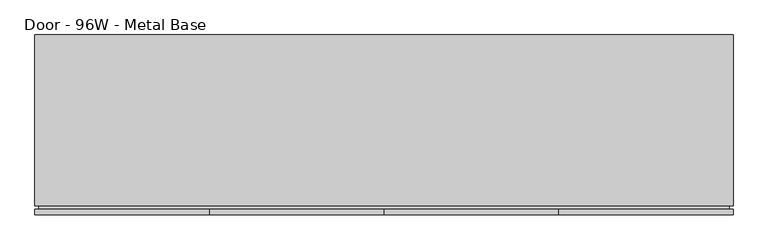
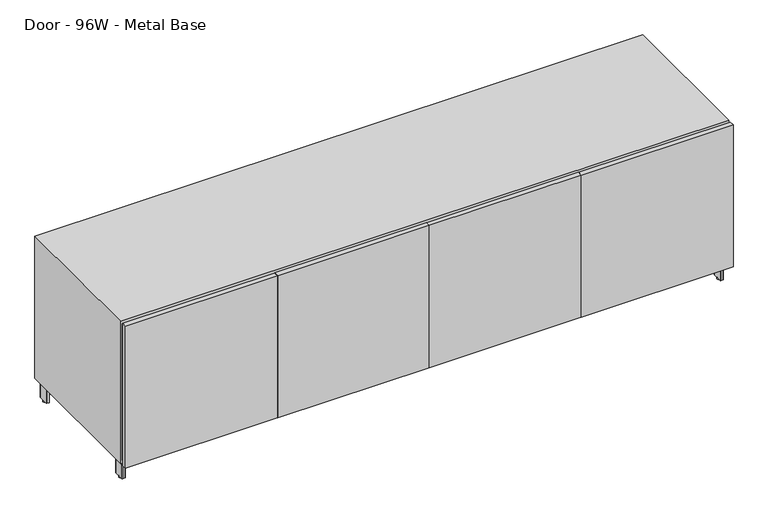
"""IFC4 building model written with IfcOpenShell, lengths in millimetres: furniture geometry, Steelcase Coalesse - Exponents - Storage - Credenza - 27H : Door - 96W - Metal Base."""

from ifc_helpers import new_model, si_unit, point, frame, frame_2d, origin, origin_with_axes, place, context, project, spatial, polyline, circle_curve, trimmed, segment, composite_curve, outline, extrude, faceted_brep, source, transform, mapped, element, save


def door_96w_metal_base_defe34cb(model_context):
    return source(origin(), model_context, "Body", "SolidModel", [
        faceted_brep([(6.35, 31.75, 673.1), (6.35, 31.75, 95.25), (6.35, 622.3, 95.25), (6.35, 622.3, 673.1), (2432.05, 622.3, 95.25), (2432.05, 622.3, 673.1), (2432.05, 31.75, 95.25), (2432.05, 31.75, 673.1), (0.0, 31.75, 82.55), (2438.4, 31.75, 82.55), (2438.4, 31.75, 685.8), (0.0, 31.75, 685.8), (2438.4, 628.65, 82.55), (2438.4, 628.65, 685.8), (0.0, 628.65, 82.55), (0.0, 628.65, 685.8)], [[[0, 1, 2, 3]], [[3, 2, 4, 5]], [[5, 4, 6, 7]], [[8, 9, 10, 11], [7, 6, 1, 0]], [[10, 9, 12, 13]], [[13, 12, 14, 15]], [[15, 14, 8, 11]], [[7, 0, 3, 5]], [[10, 13, 15, 11]], [[1, 6, 4, 2]], [[12, 9, 8, 14]]]),
        extrude(outline(composite_curve([segment(polyline([(2414.7506426, 615.95), (2423.922, 615.95)]), True, "CONTINUOUS"), segment(trimmed(circle_curve(frame_2d((2423.922, 614.172)), 1.778), [point((2423.922, 615.95))], [point((2425.7, 614.172))], False, "CARTESIAN"), True, "CONTINUOUS"), segment(polyline([(2425.7, 614.172), (2425.7, 572.9986)]), True, "CONTINUOUS"), segment(trimmed(circle_curve(frame_2d((2423.922, 572.9986)), 1.778), [point((2425.7, 572.9986))], [point((2423.922, 571.2206))], False, "CARTESIAN"), True, "CONTINUOUS"), segment(polyline([(2423.922, 571.2206), (2414.7948916, 571.2206)]), True, "CONTINUOUS"), segment(trimmed(circle_curve(frame_2d((2414.7948916, 573.0154916)), 1.7948916), [point((2414.7948916, 571.2206))], [point((2413.0, 573.0154916))], False, "CARTESIAN"), True, "CONTINUOUS"), segment(polyline([(2413.0, 573.0154916), (2413.0, 614.1993574)]), True, "CONTINUOUS"), segment(trimmed(circle_curve(frame_2d((2414.7506426, 614.1993574)), 1.7506426), [point((2413.0, 614.1993574))], [point((2414.7506426, 615.95))], False, "CARTESIAN"), True, "CONTINUOUS")], self_intersect=False)), frame((0.0, 0.0, 6.35), z_axis=(0.0, 0.0, 1.0), x_axis=(1.0, 0.0, 0.0)), (0.0, 0.0, 1.0), 73.4568),
        extrude(outline(composite_curve([segment(polyline([(2414.7506426, 88.9), (2423.922, 88.9)]), True, "CONTINUOUS"), segment(trimmed(circle_curve(frame_2d((2423.922, 87.122)), 1.778), [point((2423.922, 88.9))], [point((2425.7, 87.122))], False, "CARTESIAN"), True, "CONTINUOUS"), segment(polyline([(2425.7, 87.122), (2425.7, 45.9486)]), True, "CONTINUOUS"), segment(trimmed(circle_curve(frame_2d((2423.922, 45.9486)), 1.778), [point((2425.7, 45.9486))], [point((2423.922, 44.1706))], False, "CARTESIAN"), True, "CONTINUOUS"), segment(polyline([(2423.922, 44.1706), (2414.7948916, 44.1706)]), True, "CONTINUOUS"), segment(trimmed(circle_curve(frame_2d((2414.7948916, 45.9654916)), 1.7948916), [point((2414.7948916, 44.1706))], [point((2413.0, 45.9654916))], False, "CARTESIAN"), True, "CONTINUOUS"), segment(polyline([(2413.0, 45.9654916), (2413.0, 87.1493574)]), True, "CONTINUOUS"), segment(trimmed(circle_curve(frame_2d((2414.7506426, 87.1493574)), 1.7506426), [point((2413.0, 87.1493574))], [point((2414.7506426, 88.9))], False, "CARTESIAN"), True, "CONTINUOUS")], self_intersect=False)), frame((0.0, 0.0, 6.35), z_axis=(0.0, 0.0, 1.0), x_axis=(1.0, 0.0, 0.0)), (0.0, 0.0, 1.0), 73.4568),
        extrude(outline(composite_curve([segment(trimmed(circle_curve(frame_2d((2419.35, 593.5667033)), 6.35), [point((2419.35, 599.9167033))], [point((2419.35, 587.2167033))], False, "CARTESIAN"), True, "CONTINUOUS"), segment(trimmed(circle_curve(frame_2d((2419.35, 593.5667033)), 6.35), [point((2419.35, 587.2167033))], [point((2419.35, 599.9167033))], False, "CARTESIAN"), True, "CONTINUOUS")], self_intersect=False)), origin_with_axes(), (0.0, 0.0, 1.0), 6.35),
        extrude(outline(composite_curve([segment(trimmed(circle_curve(frame_2d((2419.35, 66.7867854)), 6.35), [point((2419.35, 73.1367854))], [point((2419.35, 60.4367854))], False, "CARTESIAN"), True, "CONTINUOUS"), segment(trimmed(circle_curve(frame_2d((2419.35, 66.7867854)), 6.35), [point((2419.35, 60.4367854))], [point((2419.35, 73.1367854))], False, "CARTESIAN"), True, "CONTINUOUS")], self_intersect=False)), origin_with_axes(), (0.0, 0.0, 1.0), 6.35),
        extrude(outline(polyline([(1879.6, 379.0696809), (1879.6, 277.4696809), (1778.0, 277.4696809), (1778.0, 379.0696809), (1879.6, 379.0696809)])), frame((0.0, 0.0, 79.8068), z_axis=(0.0, 0.0, 1.0), x_axis=(1.0, 0.0, 0.0)), (0.0, 0.0, 1.0), 2.7432),
        extrude(outline(polyline([(673.1, 2425.7), (673.1, 12.7), (95.25, 12.7), (95.25, 2425.7), (673.1, 2425.7)]), holes=[polyline([(666.75, 2419.35), (101.6, 2419.35), (101.6, 19.05), (666.75, 19.05), (666.75, 2419.35)])]), frame((0.0, 19.05, 0.0), z_axis=(0.0, 1.0, 0.0), x_axis=(0.0, 0.0, 1.0)), (0.0, 0.0, 1.0), 31.75),
        extrude(outline(composite_curve([segment(polyline([(1821.0256426, 349.25), (1836.547, 349.25)]), True, "CONTINUOUS"), segment(trimmed(circle_curve(frame_2d((1836.547, 347.472)), 1.778), [point((1836.547, 349.25))], [point((1838.325, 347.472))], False, "CARTESIAN"), True, "CONTINUOUS"), segment(polyline([(1838.325, 347.472), (1838.325, 312.928)]), True, "CONTINUOUS"), segment(trimmed(circle_curve(frame_2d((1836.547, 312.928)), 1.778), [point((1838.325, 312.928))], [point((1836.547, 311.15))], False, "CARTESIAN"), True, "CONTINUOUS"), segment(polyline([(1836.547, 311.15), (1821.0698916, 311.15)]), True, "CONTINUOUS"), segment(trimmed(circle_curve(frame_2d((1821.0698916, 312.9448916)), 1.7948916), [point((1821.0698916, 311.15))], [point((1819.275, 312.9448916))], False, "CARTESIAN"), True, "CONTINUOUS"), segment(polyline([(1819.275, 312.9448916), (1819.275, 347.4993574)]), True, "CONTINUOUS"), segment(trimmed(circle_curve(frame_2d((1821.0256426, 347.4993574)), 1.7506426), [point((1819.275, 347.4993574))], [point((1821.0256426, 349.25))], False, "CARTESIAN"), True, "CONTINUOUS")], self_intersect=False)), frame((0.0, 0.0, 6.35), z_axis=(0.0, 0.0, 1.0), x_axis=(1.0, 0.0, 0.0)), (0.0, 0.0, 1.0), 73.4568),
        extrude(outline(polyline([(1830.0800308, 345.280854), (2413.0, 598.591626), (2413.0, 577.8206777), (1843.1741031, 330.2), (2413.0, 82.5793223), (2413.0, 61.808374), (1830.377267, 314.9899805), (1836.8101738, 329.7934165), (1830.0800308, 345.280854)])), frame((0.0, 0.0, 34.925), z_axis=(0.0, 0.0, 1.0), x_axis=(1.0, 0.0, 0.0)), (0.0, 0.0, 1.0), 44.8818),
        extrude(outline(polyline([(2432.05, 520.7), (2330.45, 520.7), (2330.45, 622.3), (2432.05, 622.3), (2432.05, 520.7)])), frame((0.0, 0.0, 79.8068), z_axis=(0.0, 0.0, 1.0), x_axis=(1.0, 0.0, 0.0)), (0.0, 0.0, 1.0), 2.7432),
        extrude(outline(polyline([(2432.05, 139.7), (2432.05, 38.1), (2330.45, 38.1), (2330.45, 139.7), (2432.05, 139.7)])), frame((0.0, 0.0, 79.8068), z_axis=(0.0, 0.0, 1.0), x_axis=(1.0, 0.0, 0.0)), (0.0, 0.0, 1.0), 2.7432),
        extrude(outline(composite_curve([segment(trimmed(circle_curve(frame_2d((1828.6250692, 330.5590189)), 6.35), [point((1828.6250692, 336.9090189))], [point((1828.6250692, 324.2090189))], False, "CARTESIAN"), True, "CONTINUOUS"), segment(trimmed(circle_curve(frame_2d((1828.6250692, 330.5590189)), 6.35), [point((1828.6250692, 324.2090189))], [point((1828.6250692, 336.9090189))], False, "CARTESIAN"), True, "CONTINUOUS")], self_intersect=False)), origin_with_axes(), (0.0, 0.0, 1.0), 6.35),
        extrude(outline(composite_curve([segment(trimmed(circle_curve(frame_2d((1219.2, 330.5590189)), 6.35), [point((1219.2, 324.2090189))], [point((1219.2, 336.9090189))], False, "CARTESIAN"), True, "CONTINUOUS"), segment(trimmed(circle_curve(frame_2d((1219.2, 330.5590189)), 6.35), [point((1219.2, 336.9090189))], [point((1219.2, 324.2090189))], False, "CARTESIAN"), True, "CONTINUOUS")], self_intersect=False)), origin_with_axes(), (0.0, 0.0, 1.0), 6.35),
        extrude(outline(polyline([(1168.4, 379.0696809), (1270.0, 379.0696809), (1270.0, 277.4696809), (1168.4, 277.4696809), (1168.4, 379.0696809)])), frame((0.0, 0.0, 79.8068), z_axis=(0.0, 0.0, 1.0), x_axis=(1.0, 0.0, 0.0)), (0.0, 0.0, 1.0), 2.7432),
        extrude(outline(composite_curve([segment(trimmed(circle_curve(frame_2d((1226.9743574, 347.4993574)), 1.7506426), [point((1226.9743574, 349.25))], [point((1228.725, 347.4993574))], False, "CARTESIAN"), True, "CONTINUOUS"), segment(polyline([(1228.725, 347.4993574), (1228.725, 312.9448916)]), True, "CONTINUOUS"), segment(trimmed(circle_curve(frame_2d((1226.9301084, 312.9448916)), 1.7948916), [point((1228.725, 312.9448916))], [point((1226.9301084, 311.15))], False, "CARTESIAN"), True, "CONTINUOUS"), segment(polyline([(1226.9301084, 311.15), (1211.453, 311.15)]), True, "CONTINUOUS"), segment(trimmed(circle_curve(frame_2d((1211.453, 312.928)), 1.778), [point((1211.453, 311.15))], [point((1209.675, 312.928))], False, "CARTESIAN"), True, "CONTINUOUS"), segment(polyline([(1209.675, 312.928), (1209.675, 347.472)]), True, "CONTINUOUS"), segment(trimmed(circle_curve(frame_2d((1211.453, 347.472)), 1.778), [point((1209.675, 347.472))], [point((1211.453, 349.25))], False, "CARTESIAN"), True, "CONTINUOUS"), segment(polyline([(1211.453, 349.25), (1226.9743574, 349.25)]), True, "CONTINUOUS")], self_intersect=False)), frame((0.0, 0.0, 6.35), z_axis=(0.0, 0.0, 1.0), x_axis=(1.0, 0.0, 0.0)), (0.0, 0.0, 1.0), 73.4568),
        extrude(outline(polyline([(2438.4, 19.05), (2438.4, 0.0), (1829.435, 0.0), (1829.435, 19.05), (2438.4, 19.05)])), frame((0.0, 0.0, 82.55), z_axis=(0.0, 0.0, 1.0), x_axis=(1.0, 0.0, 0.0)), (0.0, 0.0, 1.0), 603.25),
        extrude(outline(polyline([(1827.8348, 19.05), (1827.8348, 0.0), (1220.0128, 0.0), (1220.0128, 19.05), (1827.8348, 19.05)])), frame((0.0, 0.0, 82.55), z_axis=(0.0, 0.0, 1.0), x_axis=(1.0, 0.0, 0.0)), (0.0, 0.0, 1.0), 603.25),
        extrude(outline(composite_curve([segment(trimmed(circle_curve(frame_2d((23.6493574, 614.1993574)), 1.7506426), [point((23.6493574, 615.95))], [point((25.4, 614.1993574))], False, "CARTESIAN"), True, "CONTINUOUS"), segment(polyline([(25.4, 614.1993574), (25.4, 573.0154916)]), True, "CONTINUOUS"), segment(trimmed(circle_curve(frame_2d((23.6051084, 573.0154916)), 1.7948916), [point((25.4, 573.0154916))], [point((23.6051084, 571.2206))], False, "CARTESIAN"), True, "CONTINUOUS"), segment(polyline([(23.6051084, 571.2206), (14.478, 571.2206)]), True, "CONTINUOUS"), segment(trimmed(circle_curve(frame_2d((14.478, 572.9986)), 1.778), [point((14.478, 571.2206))], [point((12.7, 572.9986))], False, "CARTESIAN"), True, "CONTINUOUS"), segment(polyline([(12.7, 572.9986), (12.7, 614.172)]), True, "CONTINUOUS"), segment(trimmed(circle_curve(frame_2d((14.478, 614.172)), 1.778), [point((12.7, 614.172))], [point((14.478, 615.95))], False, "CARTESIAN"), True, "CONTINUOUS"), segment(polyline([(14.478, 615.95), (23.6493574, 615.95)]), True, "CONTINUOUS")], self_intersect=False)), frame((0.0, 0.0, 6.35), z_axis=(0.0, 0.0, 1.0), x_axis=(1.0, 0.0, 0.0)), (0.0, 0.0, 1.0), 73.4568),
        extrude(outline(composite_curve([segment(trimmed(circle_curve(frame_2d((23.6493574, 87.1493574)), 1.7506426), [point((23.6493574, 88.9))], [point((25.4, 87.1493574))], False, "CARTESIAN"), True, "CONTINUOUS"), segment(polyline([(25.4, 87.1493574), (25.4, 45.9654916)]), True, "CONTINUOUS"), segment(trimmed(circle_curve(frame_2d((23.6051084, 45.9654916)), 1.7948916), [point((25.4, 45.9654916))], [point((23.6051084, 44.1706))], False, "CARTESIAN"), True, "CONTINUOUS"), segment(polyline([(23.6051084, 44.1706), (14.478, 44.1706)]), True, "CONTINUOUS"), segment(trimmed(circle_curve(frame_2d((14.478, 45.9486)), 1.778), [point((14.478, 44.1706))], [point((12.7, 45.9486))], False, "CARTESIAN"), True, "CONTINUOUS"), segment(polyline([(12.7, 45.9486), (12.7, 87.122)]), True, "CONTINUOUS"), segment(trimmed(circle_curve(frame_2d((14.478, 87.122)), 1.778), [point((12.7, 87.122))], [point((14.478, 88.9))], False, "CARTESIAN"), True, "CONTINUOUS"), segment(polyline([(14.478, 88.9), (23.6493574, 88.9)]), True, "CONTINUOUS")], self_intersect=False)), frame((0.0, 0.0, 6.35), z_axis=(0.0, 0.0, 1.0), x_axis=(1.0, 0.0, 0.0)), (0.0, 0.0, 1.0), 73.4568),
        extrude(outline(composite_curve([segment(trimmed(circle_curve(frame_2d((617.3743574, 347.4993574)), 1.7506426), [point((617.3743574, 349.25))], [point((619.125, 347.4993574))], False, "CARTESIAN"), True, "CONTINUOUS"), segment(polyline([(619.125, 347.4993574), (619.125, 312.9448916)]), True, "CONTINUOUS"), segment(trimmed(circle_curve(frame_2d((617.3301084, 312.9448916)), 1.7948916), [point((619.125, 312.9448916))], [point((617.3301084, 311.15))], False, "CARTESIAN"), True, "CONTINUOUS"), segment(polyline([(617.3301084, 311.15), (601.853, 311.15)]), True, "CONTINUOUS"), segment(trimmed(circle_curve(frame_2d((601.853, 312.928)), 1.778), [point((601.853, 311.15))], [point((600.075, 312.928))], False, "CARTESIAN"), True, "CONTINUOUS"), segment(polyline([(600.075, 312.928), (600.075, 347.472)]), True, "CONTINUOUS"), segment(trimmed(circle_curve(frame_2d((601.853, 347.472)), 1.778), [point((600.075, 347.472))], [point((601.853, 349.25))], False, "CARTESIAN"), True, "CONTINUOUS"), segment(polyline([(601.853, 349.25), (617.3743574, 349.25)]), True, "CONTINUOUS")], self_intersect=False)), frame((0.0, 0.0, 6.35), z_axis=(0.0, 0.0, 1.0), x_axis=(1.0, 0.0, 0.0)), (0.0, 0.0, 1.0), 73.4568),
        extrude(outline(polyline([(608.3199692, 345.280854), (601.5898262, 329.7934165), (608.022733, 314.9899805), (25.4, 61.808374), (25.4, 82.5793223), (595.2258969, 330.2), (25.4, 577.8206777), (25.4, 598.591626), (608.3199692, 345.280854)])), frame((0.0, 0.0, 34.925), z_axis=(0.0, 0.0, 1.0), x_axis=(1.0, 0.0, 0.0)), (0.0, 0.0, 1.0), 44.8818),
        extrude(outline(polyline([(1218.4126, 19.05), (1218.4126, 0.0), (610.5652, 0.0), (610.5652, 19.05), (1218.4126, 19.05)])), frame((0.0, 0.0, 82.55), z_axis=(0.0, 0.0, 1.0), x_axis=(1.0, 0.0, 0.0)), (0.0, 0.0, 1.0), 603.25),
        extrude(outline(polyline([(6.35, 520.7), (6.35, 622.3), (107.95, 622.3), (107.95, 520.7), (6.35, 520.7)])), frame((0.0, 0.0, 79.8068), z_axis=(0.0, 0.0, 1.0), x_axis=(1.0, 0.0, 0.0)), (0.0, 0.0, 1.0), 2.7432),
        extrude(outline(polyline([(6.35, 139.7), (107.95, 139.7), (107.95, 38.1), (6.35, 38.1), (6.35, 139.7)])), frame((0.0, 0.0, 79.8068), z_axis=(0.0, 0.0, 1.0), x_axis=(1.0, 0.0, 0.0)), (0.0, 0.0, 1.0), 2.7432),
        extrude(outline(polyline([(558.8, 379.0696809), (660.4, 379.0696809), (660.4, 277.4696809), (558.8, 277.4696809), (558.8, 379.0696809)])), frame((0.0, 0.0, 79.8068), z_axis=(0.0, 0.0, 1.0), x_axis=(1.0, 0.0, 0.0)), (0.0, 0.0, 1.0), 2.7432),
        extrude(outline(polyline([(608.965, 19.05), (608.965, 0.0), (0.0, 0.0), (0.0, 19.05), (608.965, 19.05)])), frame((0.0, 0.0, 82.55), z_axis=(0.0, 0.0, 1.0), x_axis=(1.0, 0.0, 0.0)), (0.0, 0.0, 1.0), 603.25),
        extrude(outline(composite_curve([segment(trimmed(circle_curve(frame_2d((19.05, 593.5667033)), 6.35), [point((12.7, 593.5667033))], [point((25.4, 593.5667033))], False, "CARTESIAN"), True, "CONTINUOUS"), segment(trimmed(circle_curve(frame_2d((19.05, 593.5667033)), 6.35), [point((25.4, 593.5667033))], [point((12.7, 593.5667033))], False, "CARTESIAN"), True, "CONTINUOUS")], self_intersect=False)), origin_with_axes(), (0.0, 0.0, 1.0), 6.35),
        extrude(outline(composite_curve([segment(trimmed(circle_curve(frame_2d((19.05, 66.7867854)), 6.35), [point((12.7, 66.7867854))], [point((25.4, 66.7867854))], False, "CARTESIAN"), True, "CONTINUOUS"), segment(trimmed(circle_curve(frame_2d((19.05, 66.7867854)), 6.35), [point((25.4, 66.7867854))], [point((12.7, 66.7867854))], False, "CARTESIAN"), True, "CONTINUOUS")], self_intersect=False)), origin_with_axes(), (0.0, 0.0, 1.0), 6.35),
        extrude(outline(composite_curve([segment(trimmed(circle_curve(frame_2d((609.7749308, 330.5590189)), 6.35), [point((603.4249308, 330.5590189))], [point((616.1249308, 330.5590189))], False, "CARTESIAN"), True, "CONTINUOUS"), segment(trimmed(circle_curve(frame_2d((609.7749308, 330.5590189)), 6.35), [point((616.1249308, 330.5590189))], [point((603.4249308, 330.5590189))], False, "CARTESIAN"), True, "CONTINUOUS")], self_intersect=False)), origin_with_axes(), (0.0, 0.0, 1.0), 6.35),
        extrude(outline(polyline([(0.0, -19.05), (0.0, 0.0), (31.75, 0.0), (31.75, -19.05), (0.0, -19.05)])), frame((1828.8, 19.05, 101.6), z_axis=(2.934541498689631e-12, 0.0, 1.0), x_axis=(0.0, 1.0, 0.0)), (0.0, 0.0, 1.0), 565.15),
        extrude(outline(polyline([(0.0, -19.05), (0.0, 0.0), (31.75, 0.0), (31.75, -19.05), (0.0, -19.05)])), frame((1209.675, 19.05, 101.6), z_axis=(3.1477043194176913e-12, 0.0, 1.0), x_axis=(0.0, 1.0, 0.0)), (0.0, 0.0, 1.0), 565.15),
        extrude(outline(polyline([(0.0, -19.05), (0.0, 0.0), (31.75, 0.0), (31.75, -19.05), (0.0, -19.05)])), frame((590.55, 19.05, 101.6), z_axis=(3.3608671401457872e-12, 0.0, 1.0), x_axis=(0.0, 1.0, 0.0)), (0.0, 0.0, 1.0), 565.15),
        extrude(outline(polyline([(1209.675, 609.6), (1228.725, 609.6), (1228.725, 50.8), (1209.675, 50.8), (1209.675, 609.6)])), frame((0.0, 0.0, 95.25), z_axis=(0.0, 0.0, 1.0), x_axis=(1.0, 0.0, 0.0)), (0.0, 0.0, 1.0), 577.85),
        extrude(outline(polyline([(1828.8, 609.6), (1847.85, 609.6), (1847.85, 50.8), (1828.8, 50.8), (1828.8, 609.6)])), frame((0.0, 0.0, 95.25), z_axis=(0.0, 0.0, 1.0), x_axis=(1.0, 0.0, 0.0)), (0.0, 0.0, 1.0), 577.85),
        extrude(outline(polyline([(1828.8, 50.8), (1228.725, 50.8), (1228.725, 609.6), (1828.8, 609.6), (1828.8, 50.8)])), frame((0.0, 0.0, 371.475), z_axis=(0.0, 0.0, 1.0), x_axis=(1.0, 0.0, 0.0)), (0.0, 0.0, 1.0), 19.05),
        extrude(outline(polyline([(1209.675, 50.8), (609.6, 50.8), (609.6, 609.6), (1209.675, 609.6), (1209.675, 50.8)])), frame((0.0, 0.0, 371.475), z_axis=(0.0, 0.0, 1.0), x_axis=(1.0, 0.0, 0.0)), (0.0, 0.0, 1.0), 19.05),
        extrude(outline(polyline([(590.55, 609.6), (609.6, 609.6), (609.6, 50.8), (590.55, 50.8), (590.55, 609.6)])), frame((0.0, 0.0, 95.25), z_axis=(0.0, 0.0, 1.0), x_axis=(1.0, 0.0, 0.0)), (0.0, 0.0, 1.0), 577.85),
    ])


if __name__ == "__main__":
    model = new_model("IFC4")
    model_context = context("Model", 3, world=origin())
    ifc_project = project(units=[si_unit("LENGTHUNIT", "METRE", prefix="MILLI")], contexts=[model_context])
    site = spatial("IfcSite", under=ifc_project)
    building = spatial("IfcBuilding", under=site)
    placement = place(None, origin())
    door_96w_metal_base_shape = door_96w_metal_base_defe34cb(model_context)
    element("IfcFurniture", 1, ObjectType="Steelcase Coalesse - Exponents - Storage - Credenza - 27H : Door - 96W - Metal Base", at=placement, inside=building, context=model_context, shape_type="MappedRepresentation", body=[
        mapped(door_96w_metal_base_shape, transform((0.0, 0.0, 0.0), x_axis=(1.0, 0.0, 0.0), y_axis=(0.0, 1.0, 0.0), z_axis=(0.0, 0.0, 1.0))),
    ])
    save(model, "model.ifc")
